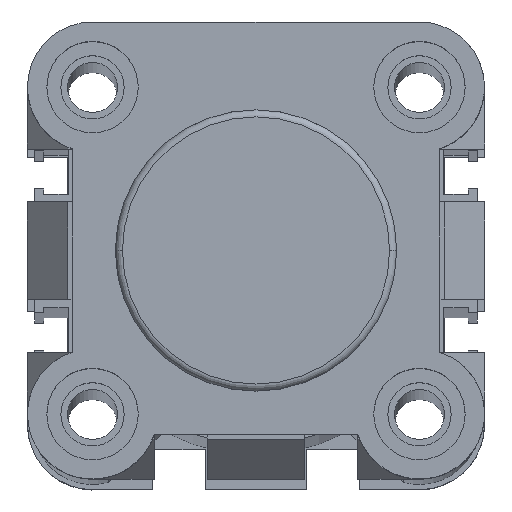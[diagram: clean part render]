
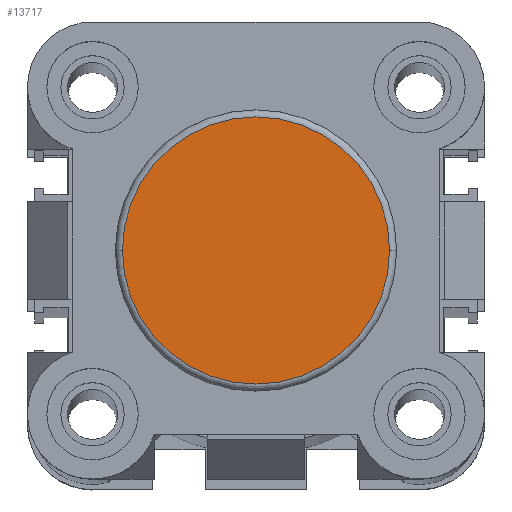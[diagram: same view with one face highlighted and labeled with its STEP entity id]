
A CAD part, top view. The second image highlights one B-rep face of the part: STEP entity #13717.
In plain terms, the highlighted planar face has unit normal (0, 0, 1).
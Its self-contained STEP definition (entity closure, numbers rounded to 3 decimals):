
#453 = AXIS2_PLACEMENT_3D ( 'NONE', #3360, #13062, #9255 ) ;
#2459 = VERTEX_POINT ( 'NONE', #21169 ) ;
#2460 = ORIENTED_EDGE ( 'NONE', *, *, #5885, .T. ) ;
#2802 = DIRECTION ( 'NONE',  ( 0., 0., 1. ) ) ;
#3040 = EDGE_CURVE ( 'NONE', #2459, #19604, #10011, .T. ) ;
#3360 = CARTESIAN_POINT ( 'NONE',  ( 32.5, 32.5, 34. ) ) ;
#3475 = ORIENTED_EDGE ( 'NONE', *, *, #3040, .T. ) ;
#4567 = AXIS2_PLACEMENT_3D ( 'NONE', #23658, #2802, #21925 ) ;
#5885 = EDGE_CURVE ( 'NONE', #19604, #2459, #16405, .T. ) ;
#9255 = DIRECTION ( 'NONE',  ( 1., 0., 0. ) ) ;
#10011 = CIRCLE ( 'NONE', #4567, 19. ) ;
#10611 = DIRECTION ( 'NONE',  ( 0., 0., 1. ) ) ;
#11311 = AXIS2_PLACEMENT_3D ( 'NONE', #12207, #10611, #14770 ) ;
#11461 = EDGE_LOOP ( 'NONE', ( #2460, #3475 ) ) ;
#12207 = CARTESIAN_POINT ( 'NONE',  ( 32.5, 32.5, 34. ) ) ;
#12820 = PLANE ( 'NONE',  #453 ) ;
#13062 = DIRECTION ( 'NONE',  ( 0., 0., 1. ) ) ;
#13717 = ADVANCED_FACE ( 'NONE', ( #15404 ), #12820, .T. ) ;
#14770 = DIRECTION ( 'NONE',  ( 1., 0., 0. ) ) ;
#15404 = FACE_OUTER_BOUND ( 'NONE', #11461, .T. ) ;
#16405 = CIRCLE ( 'NONE', #11311, 19. ) ;
#16411 = CARTESIAN_POINT ( 'NONE',  ( 51.5, 32.5, 34. ) ) ;
#19604 = VERTEX_POINT ( 'NONE', #16411 ) ;
#21169 = CARTESIAN_POINT ( 'NONE',  ( 13.5, 32.5, 34. ) ) ;
#21925 = DIRECTION ( 'NONE',  ( 1., 0., 0. ) ) ;
#23658 = CARTESIAN_POINT ( 'NONE',  ( 32.5, 32.5, 34. ) ) ;
